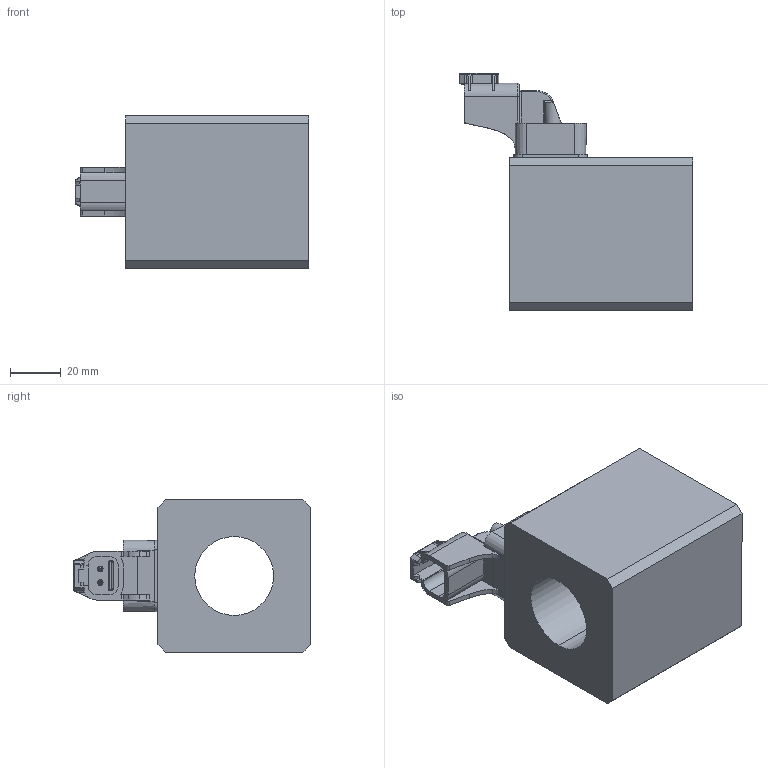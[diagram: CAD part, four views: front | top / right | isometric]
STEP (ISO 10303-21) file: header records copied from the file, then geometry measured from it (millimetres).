
FILE_DESCRIPTION (( 'STEP AP214' ), '1' );
FILE_NAME ('MGS60_31x72.STEP', '2015-07-17T07:45:18', ( '' ), ( '' ), 'SwSTEP 2.0', 'SolidWorks 2014', '' );
FILE_SCHEMA (( 'AUTOMOTIVE_DESIGN' ));
Length unit declared in the file: millimetre
Products named in the file (2): MGS60_31x72
Bounding box: 91.8 x 93.2 x 60 mm (x, y, z)
Volume: 224573.7 mm3; surface area: 46998.6 mm2
Topology: 10 solids, 11 shells, 505 faces, 1291 edges, 814 vertices
Faces by surface type: plane 239, cylinder 174, cone 40, torus 32, bspline 12, sphere 8
Entity records: 21275 total; most frequent: CARTESIAN_POINT 3306, DIRECTION 2598, ORIENTED_EDGE 2570, EDGE_CURVE 1285, AXIS2_PLACEMENT_3D 926, VERTEX_POINT 814, LINE 746, VECTOR 746
